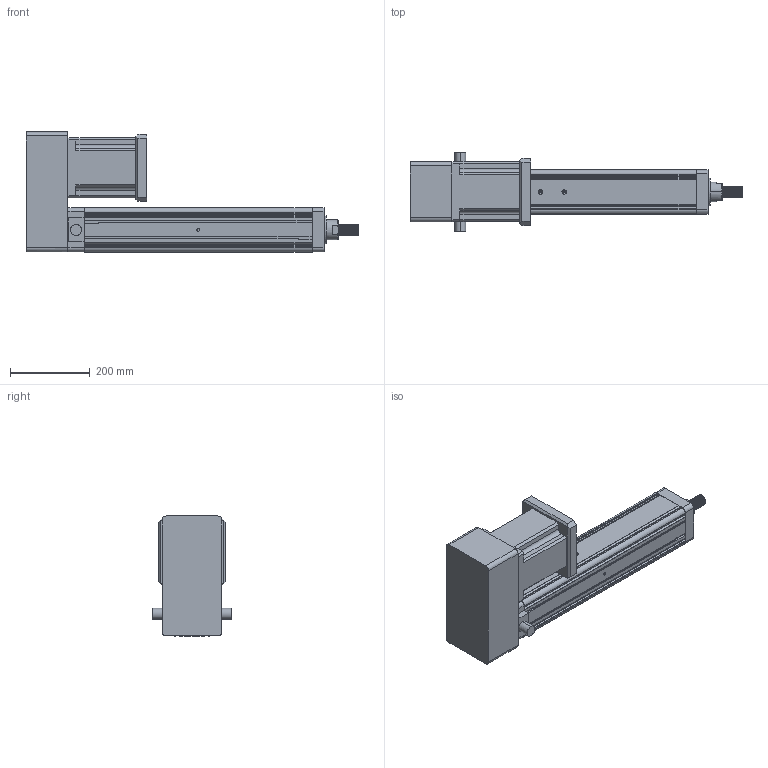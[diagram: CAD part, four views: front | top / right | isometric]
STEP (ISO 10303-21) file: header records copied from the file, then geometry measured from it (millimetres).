
FILE_DESCRIPTION (( 'STEP AP203' ), '1' );
FILE_NAME ('YRJ110-L400-H4K1.STEP', '2020-01-06T01:15:08', ( 'User' ), ( 'China' ), 'SwSTEP 2.0', 'SolidWorks 2016', '' );
FILE_SCHEMA (( 'CONFIG_CONTROL_DESIGN' ));
Length unit declared in the file: millimetre
Products named in the file (7): 萇儂碟-110; H5-110-2; YRJ110-L400-H4K1; 095-100俴最倰第; 142熬厒儂; K1-110; H5-110-1
Assembly tree (6 placements, depth 2):
  YRJ110-L400-H4K1
    095-100俴最倰第
    142熬厒儂
    H5-110-1
    H5-110-2
    K1-110
    萇儂碟-110
Bounding box: 831 x 200 x 300.5 mm (x, y, z)
Volume: 12190372.8 mm3; surface area: 989804.4 mm2
Topology: 6 solids, 6 shells, 364 faces, 1001 edges, 648 vertices
Faces by surface type: plane 177, cylinder 156, cone 27, bspline 4
Entity records: 20204 total; most frequent: CARTESIAN_POINT 10355, ORIENTED_EDGE 1970, DIRECTION 1829, EDGE_CURVE 985, VERTEX_POINT 648, LINE 625, VECTOR 625, AXIS2_PLACEMENT_3D 602
